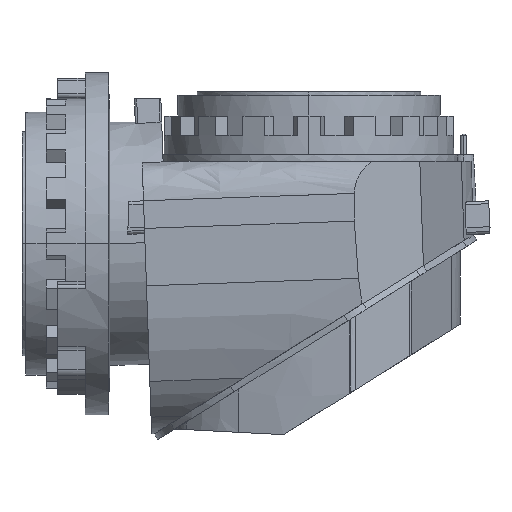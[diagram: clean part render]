
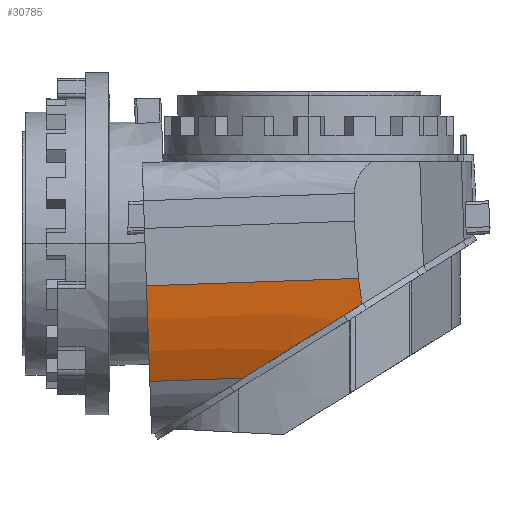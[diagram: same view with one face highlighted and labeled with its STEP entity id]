
A CAD part, front view. The second image highlights one B-rep face of the part: STEP entity #30785.
In plain terms, the highlighted free-form (B-spline) face has degree [3, 3] with [4, 4] control points.
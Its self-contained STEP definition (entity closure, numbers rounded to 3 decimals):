
#5411 = CARTESIAN_POINT ( 'NONE',  ( 39.922, -341.787, -117.169 ) ) ;
#8751 = CARTESIAN_POINT ( 'NONE',  ( 80.516, -346.197, -91.803 ) ) ;
#8752 = CARTESIAN_POINT ( 'NONE',  ( 66.963, -345.01, -100.272 ) ) ;
#8753 = CARTESIAN_POINT ( 'NONE',  ( 53.431, -343.543, -108.727 ) ) ;
#8754 = CARTESIAN_POINT ( 'NONE',  ( 39.922, -341.787, -117.169 ) ) ;
#8761 = B_SPLINE_CURVE_WITH_KNOTS ( 'NONE', 3,
 ( #8754, #8753, #8752, #8751 ),
 .UNSPECIFIED., .F., .F.,
 ( 4, 4 ),
 ( 0., 0.048 ),
 .UNSPECIFIED. ) ;
#8772 = CARTESIAN_POINT ( 'NONE',  ( 80.516, -346.197, -91.803 ) ) ;
#8805 = CARTESIAN_POINT ( 'NONE',  ( 39.922, -341.787, -117.169 ) ) ;
#8806 = CARTESIAN_POINT ( 'NONE',  ( 16.447, -338.736, -131.837 ) ) ;
#8807 = CARTESIAN_POINT ( 'NONE',  ( -6.922, -334.822, -146.44 ) ) ;
#8808 = CARTESIAN_POINT ( 'NONE',  ( -41.807, -327.552, -168.239 ) ) ;
#8809 = CARTESIAN_POINT ( 'NONE',  ( -53.394, -324.897, -175.479 ) ) ;
#8811 = CARTESIAN_POINT ( 'NONE',  ( -76.479, -319.102, -189.904 ) ) ;
#8812 = CARTESIAN_POINT ( 'NONE',  ( -87.978, -315.961, -197.089 ) ) ;
#8813 = CARTESIAN_POINT ( 'NONE',  ( -99.429, -312.56, -204.245 ) ) ;
#8821 = CARTESIAN_POINT ( 'NONE',  ( -99.429, -312.56, -204.245 ) ) ;
#8822 = B_SPLINE_CURVE_WITH_KNOTS ( 'NONE', 3,
 ( #8813, #8812, #8811, #8809, #8808, #8807, #8806, #8805 ),
 .UNSPECIFIED., .F., .F.,
 ( 4, 2, 2, 4 ),
 ( 0., 0.042, 0.083, 0.167 ),
 .UNSPECIFIED. ) ;
#9092 = CARTESIAN_POINT ( 'NONE',  ( 75.232, -349.787, -52.709 ) ) ;
#9093 = CARTESIAN_POINT ( 'NONE',  ( 76.197, -349.325, -65.915 ) ) ;
#9094 = CARTESIAN_POINT ( 'NONE',  ( 77.968, -348.12, -78.944 ) ) ;
#9095 = CARTESIAN_POINT ( 'NONE',  ( 80.516, -346.197, -91.803 ) ) ;
#9096 = B_SPLINE_CURVE_WITH_KNOTS ( 'NONE', 3,
 ( #9095, #9094, #9093, #9092 ),
 .UNSPECIFIED., .F., .F.,
 ( 4, 4 ),
 ( 0., 0.04 ),
 .UNSPECIFIED. ) ;
#9097 = CARTESIAN_POINT ( 'NONE',  ( 75.232, -349.787, -52.709 ) ) ;
#11462 = FACE_OUTER_BOUND ( 'NONE', #30786, .T. ) ;
#11470 = CARTESIAN_POINT ( 'NONE',  ( -243.404, -335.411, -163.878 ) ) ;
#11471 = CARTESIAN_POINT ( 'NONE',  ( -134.072, -335.411, -160.06 ) ) ;
#11472 = CARTESIAN_POINT ( 'NONE',  ( -24.74, -335.411, -156.242 ) ) ;
#11473 = CARTESIAN_POINT ( 'NONE',  ( 84.592, -335.411, -152.424 ) ) ;
#11475 =( BOUNDED_SURFACE ( )  B_SPLINE_SURFACE ( 3, 3, ( 
 ( #11482, #11481, #11480, #11479 ),
 ( #11473, #11472, #11471, #11470 ),
 ( #11503, #11502, #11501, #11500 ),
 ( #11499, #11498, #11497, #11496 ) ),
 .UNSPECIFIED., .F., .F., .F. ) 
 B_SPLINE_SURFACE_WITH_KNOTS ( ( 4, 4 ),
 ( 4, 4 ),
 ( 0., 1. ),
 ( 0., 1. ),
 .UNSPECIFIED. ) 
 GEOMETRIC_REPRESENTATION_ITEM ( )  RATIONAL_B_SPLINE_SURFACE ( (
 ( 1., 1., 1., 1.),
 ( 0.985, 0.985, 0.985, 0.985),
 ( 0.985, 0.985, 0.985, 0.985),
 ( 1., 1., 1., 1.) ) ) 
 REPRESENTATION_ITEM ( '' )  SURFACE ( )  );
#11479 = CARTESIAN_POINT ( 'NONE',  ( -241.821, -312.56, -209.218 ) ) ;
#11480 = CARTESIAN_POINT ( 'NONE',  ( -132.489, -312.56, -205.4 ) ) ;
#11481 = CARTESIAN_POINT ( 'NONE',  ( -23.157, -312.56, -201.582 ) ) ;
#11482 = CARTESIAN_POINT ( 'NONE',  ( 86.175, -312.56, -197.764 ) ) ;
#11496 = CARTESIAN_POINT ( 'NONE',  ( -246.894, -349.787, -63.958 ) ) ;
#11497 = CARTESIAN_POINT ( 'NONE',  ( -137.561, -349.787, -60.14 ) ) ;
#11498 = CARTESIAN_POINT ( 'NONE',  ( -28.229, -349.787, -56.322 ) ) ;
#11499 = CARTESIAN_POINT ( 'NONE',  ( 81.103, -349.787, -52.504 ) ) ;
#11500 = CARTESIAN_POINT ( 'NONE',  ( -245.122, -348.015, -114.697 ) ) ;
#11501 = CARTESIAN_POINT ( 'NONE',  ( -135.79, -348.015, -110.879 ) ) ;
#11502 = CARTESIAN_POINT ( 'NONE',  ( -26.457, -348.015, -107.061 ) ) ;
#11503 = CARTESIAN_POINT ( 'NONE',  ( 82.875, -348.015, -103.243 ) ) ;
#11504 = LINE ( 'NONE', #11509, #11507 ) ;
#11506 = CARTESIAN_POINT ( 'NONE',  ( -241.821, -312.56, -209.218 ) ) ;
#11507 = VECTOR ( 'NONE', #11508, 1000. ) ;
#11508 = DIRECTION ( 'NONE',  ( 0.999, 0., 0.035 ) ) ;
#11509 = CARTESIAN_POINT ( 'NONE',  ( -77.823, -312.56, -203.491 ) ) ;
#12029 = DIRECTION ( 'NONE',  ( 0.999, 0., 0.035 ) ) ;
#12030 = CARTESIAN_POINT ( 'NONE',  ( -246.894, -349.787, -63.958 ) ) ;
#12031 = LINE ( 'NONE', #12030, #12117 ) ;
#12108 = CARTESIAN_POINT ( 'NONE',  ( -246.894, -349.787, -63.958 ) ) ;
#12109 = CARTESIAN_POINT ( 'NONE',  ( -245.122, -348.015, -114.697 ) ) ;
#12110 = CARTESIAN_POINT ( 'NONE',  ( -243.404, -335.411, -163.878 ) ) ;
#12111 = CARTESIAN_POINT ( 'NONE',  ( -241.821, -312.56, -209.218 ) ) ;
#12113 =( BOUNDED_CURVE ( )  B_SPLINE_CURVE ( 3, ( #12111, #12110, #12109, #12108 ),
 .UNSPECIFIED., .F., .T. ) 
 B_SPLINE_CURVE_WITH_KNOTS ( ( 4, 4 ),
 ( 0., 0.151 ),
 .UNSPECIFIED. ) 
 CURVE ( )  GEOMETRIC_REPRESENTATION_ITEM ( )  RATIONAL_B_SPLINE_CURVE ( ( 1., 0.985, 0.985, 1. ) ) 
 REPRESENTATION_ITEM ( '' )  );
#12116 = CARTESIAN_POINT ( 'NONE',  ( -246.894, -349.787, -63.958 ) ) ;
#12117 = VECTOR ( 'NONE', #12029, 1000. ) ;
#29955 = VERTEX_POINT ( 'NONE', #5411 ) ;
#30342 = VERTEX_POINT ( 'NONE', #8772 ) ;
#30344 = EDGE_CURVE ( 'NONE', #29955, #30342, #8761, .T. ) ;
#30351 = EDGE_CURVE ( 'NONE', #30352, #29955, #8822, .T. ) ;
#30352 = VERTEX_POINT ( 'NONE', #8821 ) ;
#30386 = VERTEX_POINT ( 'NONE', #9097 ) ;
#30388 = EDGE_CURVE ( 'NONE', #30342, #30386, #9096, .T. ) ;
#30785 = ADVANCED_FACE ( 'NONE', ( #11462 ), #11475, .T. ) ;
#30786 = EDGE_LOOP ( 'NONE', ( #30787, #30788, #30789, #30790, #30791, #30854 ) ) ;
#30787 = ORIENTED_EDGE ( 'NONE', *, *, #30803, .T. ) ;
#30788 = ORIENTED_EDGE ( 'NONE', *, *, #30351, .T. ) ;
#30789 = ORIENTED_EDGE ( 'NONE', *, *, #30344, .T. ) ;
#30790 = ORIENTED_EDGE ( 'NONE', *, *, #30388, .T. ) ;
#30791 = ORIENTED_EDGE ( 'NONE', *, *, #30852, .F. ) ;
#30803 = EDGE_CURVE ( 'NONE', #30805, #30352, #11504, .T. ) ;
#30805 = VERTEX_POINT ( 'NONE', #11506 ) ;
#30852 = EDGE_CURVE ( 'NONE', #30853, #30386, #12031, .T. ) ;
#30853 = VERTEX_POINT ( 'NONE', #12116 ) ;
#30854 = ORIENTED_EDGE ( 'NONE', *, *, #30855, .F. ) ;
#30855 = EDGE_CURVE ( 'NONE', #30805, #30853, #12113, .T. ) ;
